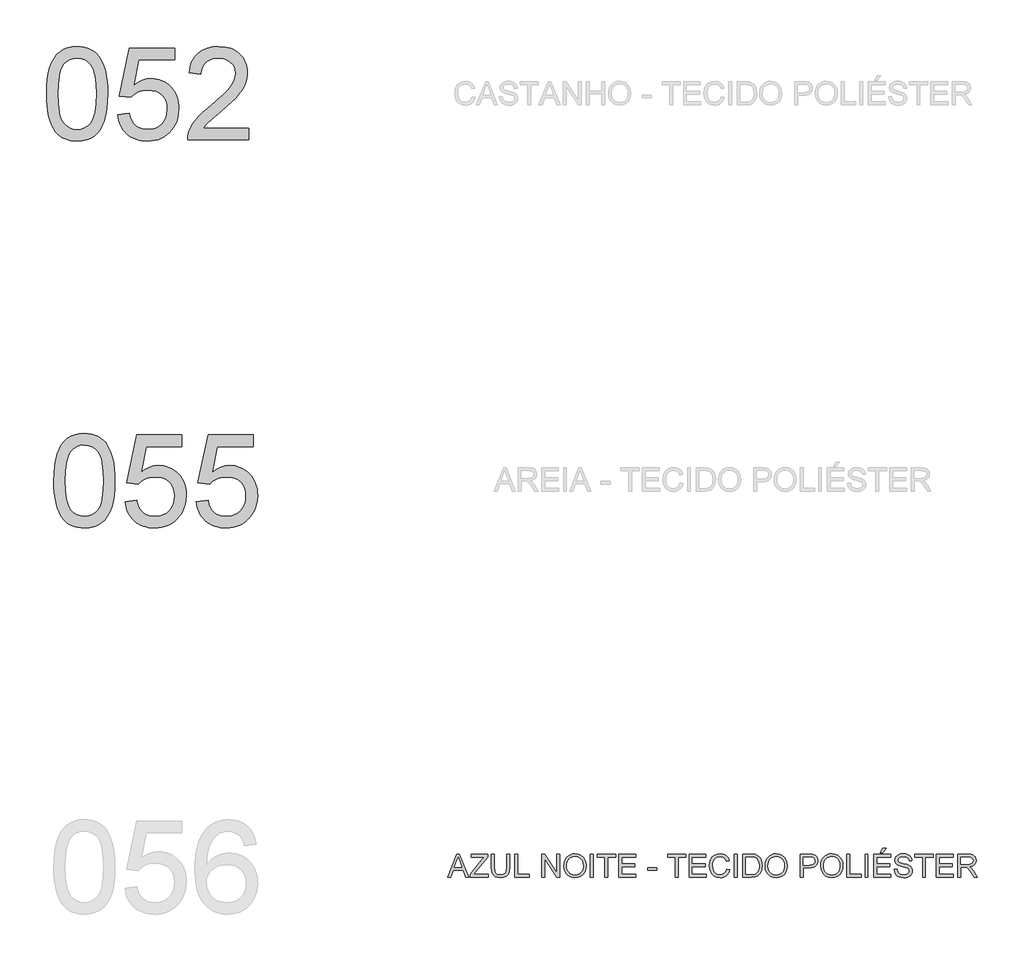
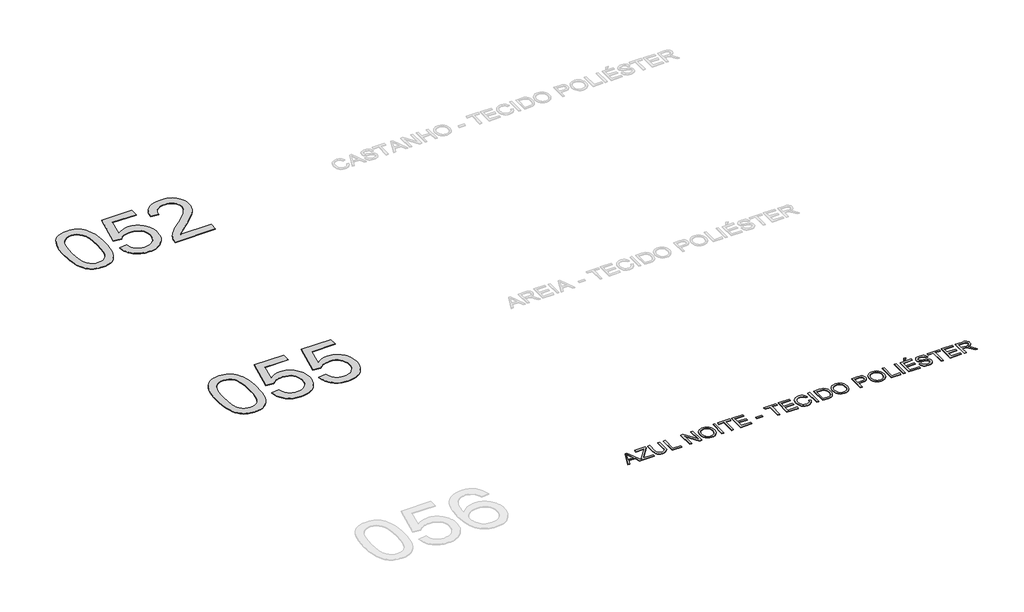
# One storey, part 50 of 67: 3 proxies.
"""IFC4 building model written with IfcOpenShell, lengths in millimetres."""

from ifc_helpers import new_model, si_unit, origin, origin_with_axes, place, context, project, spatial, polyline, outline, extrude, element, save

model = new_model("IFC4")

# Units and contexts
model_context = context("Model", 3, world=origin())
ifc_project = project(units=[si_unit("LENGTHUNIT", "METRE", prefix="MILLI")], contexts=[model_context])

# Site, building, storey
site = spatial("IfcSite", under=ifc_project)
building = spatial("IfcBuilding", under=site)
storey = spatial("IfcBuildingStorey", under=building, Name="Marelli - Linha COLAB - Planta Baixa", Elevation=0.0)

# Proxies
placement = place(None, origin())
element("IfcBuildingElementProxy", 1, Name="1200mm Arial", ObjectType="1200mm Arial", at=placement, inside=storey, context=model_context, shape_type="SweptSolid", body=[
    extrude(outline(polyline([(-134.0424838, -37395.792664), (-131.2741718, -37294.4319773), (-122.9692358, -37202.8385576), (-109.1276757, -37121.0124048), (-89.7494916, -37048.953519), (-64.9174569, -36986.073289), (-34.7143451, -36931.7831035), (0.8598438, -36886.0829627), (41.8051099, -36848.9728664), (88.2594088, -36820.2596767), (140.3606964, -36799.7502555), (198.1089726, -36787.4446027), (261.5042374, -36783.3427185), (309.1449558, -36785.7707396), (354.357653, -36793.0548031), (397.142329, -36805.194909), (437.4989839, -36822.1910572), (474.4527303, -36843.7581391), (507.028681, -36869.6110463), (535.2268359, -36899.7497788), (559.0471951, -36934.1743365), (579.685375, -36972.7467637), (598.3369922, -37015.3291046), (629.6805382, -37112.5235278), (641.6550971, -37169.6831928), (650.2083535, -37235.9479371), (655.3403073, -37311.3177609), (657.0509586, -37395.792664), (654.3102377, -37496.5095573), (646.0880752, -37587.6431245), (632.3844708, -37669.1933658), (613.1994248, -37741.1602811), (588.5605282, -37804.0681023), (558.4953721, -37858.4410612), (523.0039566, -37904.2791578), (482.0862817, -37941.5823921), (435.5768005, -37970.4887199), (383.309966, -37991.1360968), (325.2857783, -38003.524523), (261.5042374, -38007.6539984), (218.829926, -38005.8605737), (178.5100593, -38000.4802995), (140.5446374, -37991.5131759), (104.9336602, -37978.9592028), (71.6771279, -37962.8183803), (40.7750403, -37943.0907083), (12.2273975, -37919.7761868), (-13.9658006, -37892.8748159), (-42.1087732, -37850.2786794), (-66.4993495, -37802.0999336), (-87.1375294, -37748.3385785), (-104.023313, -37688.9946142), (-117.1567002, -37624.0680406), (-126.5376911, -37553.5588577), (-132.1662856, -37477.4670655), (-134.0424838, -37395.792664)]), holes=[polyline([(16.6419814, -37395.4983584), (21.0565653, -37526.4919399), (34.3003172, -37632.5247279), (44.233131, -37676.1808245), (56.3732369, -37713.5967226), (70.7206347, -37744.7724225), (87.2753245, -37769.7079239), (124.6521352, -37807.884878), (166.1492242, -37835.1541309), (211.7665916, -37851.5156826), (261.5042374, -37856.9695332), (311.2418831, -37851.4972885), (356.8592505, -37835.0805545), (398.3563396, -37807.7193311), (435.7331503, -37769.4136183), (452.2878401, -37744.418336), (466.6352379, -37713.2104465), (478.7753437, -37675.7899498), (488.7081576, -37632.1568459), (501.9519094, -37526.2528166), (506.3664934, -37395.4983584), (502.0990622, -37267.9720648), (489.2967688, -37163.8062779), (479.6950487, -37120.4835744), (467.9596131, -37083.0009976), (454.0904619, -37051.3585475), (438.0875951, -37025.5562241), (401.3361838, -36985.5122689), (359.3608481, -36956.9094438), (312.1615881, -36939.7477487), (259.7384038, -36934.0271837), (210.2582755, -36939.067167), (165.4134603, -36954.187117), (125.2039582, -36979.3870337), (89.6297692, -37014.666917), (72.5232565, -37043.2145599), (57.6976121, -37077.2068562), (45.152836, -37116.6438061), (34.8889284, -37161.5254095), (21.2037181, -37267.6225769), (16.6419814, -37395.4983584)])]), origin_with_axes(), (0.0, 0.0, 1.0), 10.0),
    extrude(outline(polyline([(788.8998657, -37668.6139517), (939.5843309, -37649.7783935), (950.84152, -37698.2192552), (967.2490569, -37740.2405761), (988.8069419, -37775.8423562), (1015.5151747, -37805.0245955), (1047.3185732, -37827.7505057), (1084.161955, -37843.9832988), (1126.0453202, -37853.7229746), (1172.9686686, -37856.9695332), (1230.3582599, -37852.4537817), (1280.9788224, -37838.9065272), (1324.8303563, -37816.3277698), (1361.9128614, -37784.7175093), (1391.3986033, -37745.6392444), (1412.4598475, -37700.6564734), (1425.096594, -37649.7691965), (1429.3088429, -37592.9774135), (1425.3633085, -37539.3034304), (1413.5267053, -37491.5891356), (1393.7990333, -37449.8345291), (1366.1802925, -37414.039611), (1330.5785124, -37385.3264213), (1286.9017225, -37364.817), (1235.1499229, -37352.5113473), (1175.3231134, -37348.4094631), (1137.0357948, -37350.0465379), (1102.224961, -37354.9577626), (1070.890612, -37363.143137), (1043.0327479, -37374.6026611), (995.7599116, -37404.6954083), (958.4198891, -37442.5872538), (807.7354238, -37423.7516957), (939.5843309, -36802.1782766), (1523.4866336, -36802.1782766), (1523.4866336, -36952.8627418), (1061.4268477, -36952.8627418), (996.9739222, -37284.8394543), (1050.1512646, -37246.7268796), (1104.6161939, -37219.503612), (1160.3687103, -37203.1696514), (1217.4088137, -37197.7249978), (1254.8477045, -37199.4126565), (1290.7920746, -37204.4756324), (1325.2419242, -37212.9139257), (1358.1972532, -37224.7275363), (1389.6580616, -37239.9164642), (1419.6243494, -37258.4807093), (1448.0961165, -37280.4202718), (1475.0733631, -37305.7351516), (1499.6639752, -37333.7033803), (1520.975839, -37363.6029895), (1539.0089546, -37395.4339791), (1553.7633219, -37429.1963492), (1565.2389408, -37464.8900998), (1573.4358115, -37502.5152308), (1578.353934, -37542.0717424), (1579.9933081, -37583.5596344), (1574.0888021, -37661.6241938), (1566.7081696, -37698.6147284), (1556.375284, -37734.2440996), (1543.0901455, -37768.5123075), (1526.8527539, -37801.4193519), (1507.6631093, -37832.965233), (1485.5212117, -37863.1499507), (1455.520435, -37897.0180869), (1422.9076962, -37926.3704716), (1387.6829951, -37951.2071048), (1349.8463319, -37971.5279865), (1309.3977066, -37987.3331167), (1266.337119, -37998.6224954), (1220.6645693, -38005.3961227), (1172.3800575, -38007.6539984), (1094.6190007, -38001.8506599), (1058.5596674, -37994.5964869), (1024.3811308, -37984.4406445), (992.0833909, -37971.383133), (961.6664477, -37955.4239522), (933.1303012, -37936.5631021), (906.4749513, -37914.8005828), (882.1372581, -37890.6422321), (860.5540813, -37864.5938875), (841.7254209, -37836.6555493), (825.651277, -37806.8272173), (812.3316495, -37775.1088915), (801.7665385, -37741.500572), (788.8998657, -37668.6139517)])), origin_with_axes(), (0.0, 0.0, 1.0), 10.0),
    extrude(outline(polyline([(1711.8422152, -37668.6139517), (1862.5266804, -37649.7783935), (1873.7838695, -37698.2192552), (1890.1914064, -37740.2405761), (1911.7492914, -37775.8423562), (1938.4575242, -37805.0245955), (1970.2609227, -37827.7505057), (2007.1043045, -37843.9832988), (2048.9876697, -37853.7229746), (2095.9110181, -37856.9695332), (2153.3006094, -37852.4537817), (2203.9211719, -37838.9065272), (2247.7727058, -37816.3277698), (2284.8552109, -37784.7175093), (2314.3409528, -37745.6392444), (2335.402197, -37700.6564734), (2348.0389435, -37649.7691965), (2352.2511924, -37592.9774135), (2348.305658, -37539.3034304), (2336.4690548, -37491.5891356), (2316.7413828, -37449.8345291), (2289.122642, -37414.039611), (2253.5208619, -37385.3264213), (2209.844072, -37364.817), (2158.0922724, -37352.5113473), (2098.2654629, -37348.4094631), (2059.9781443, -37350.0465379), (2025.1673105, -37354.9577626), (1993.8329615, -37363.143137), (1965.9750974, -37374.6026611), (1918.7022611, -37404.6954083), (1881.3622386, -37442.5872538), (1730.6777733, -37423.7516957), (1862.5266804, -36802.1782766), (2446.4289831, -36802.1782766), (2446.4289831, -36952.8627418), (1984.3691972, -36952.8627418), (1919.9162717, -37284.8394543), (1973.0936141, -37246.7268796), (2027.5585434, -37219.503612), (2083.3110598, -37203.1696514), (2140.3511632, -37197.7249978), (2177.790054, -37199.4126565), (2213.7344241, -37204.4756324), (2248.1842737, -37212.9139257), (2281.1396027, -37224.7275363), (2312.6004111, -37239.9164642), (2342.5666989, -37258.4807093), (2371.038466, -37280.4202718), (2398.0157126, -37305.7351516), (2422.6063247, -37333.7033803), (2443.9181885, -37363.6029895), (2461.9513041, -37395.4339791), (2476.7056714, -37429.1963492), (2488.1812903, -37464.8900998), (2496.378161, -37502.5152308), (2501.2962835, -37542.0717424), (2502.9356576, -37583.5596344), (2497.0311516, -37661.6241938), (2489.6505191, -37698.6147284), (2479.3176335, -37734.2440996), (2466.032495, -37768.5123075), (2449.7951034, -37801.4193519), (2430.6054588, -37832.965233), (2408.4635612, -37863.1499507), (2378.4627845, -37897.0180869), (2345.8500457, -37926.3704716), (2310.6253446, -37951.2071048), (2272.7886814, -37971.5279865), (2232.3400561, -37987.3331167), (2189.2794685, -37998.6224954), (2143.6069188, -38005.3961227), (2095.322407, -38007.6539984), (2017.5613502, -38001.8506599), (1981.5020169, -37994.5964869), (1947.3234803, -37984.4406445), (1915.0257404, -37971.383133), (1884.6087972, -37955.4239522), (1856.0726506, -37936.5631021), (1829.4173008, -37914.8005828), (1805.0796076, -37890.6422321), (1783.4964308, -37864.5938875), (1764.6677704, -37836.6555493), (1748.5936265, -37806.8272173), (1735.273999, -37775.1088915), (1724.708888, -37741.500572), (1711.8422152, -37668.6139517)])), origin_with_axes(), (0.0, 0.0, 1.0), 10.0),
])
element("IfcBuildingElementProxy", 2, Name="1200mm Arial", ObjectType="1200mm Arial", at=placement, inside=storey, context=model_context, shape_type="SweptSolid", body=[
    extrude(outline(polyline([(-228.2202746, -32387.5405438), (-225.4519626, -32286.1798571), (-217.1470265, -32194.5864374), (-203.3054665, -32112.7602846), (-183.9272824, -32040.7013988), (-159.0952477, -31977.8211688), (-128.8921359, -31923.5309833), (-93.317947, -31877.8308425), (-52.3726809, -31840.7207462), (-5.918382, -31812.0075565), (46.1829056, -31791.4981353), (103.9311818, -31779.1924825), (167.3264466, -31775.0905983), (214.967165, -31777.5186194), (260.1798622, -31784.8026829), (302.9645382, -31796.9427888), (343.3211931, -31813.938937), (380.2749395, -31835.5060189), (412.8508902, -31861.3589261), (441.0490451, -31891.4976586), (464.8694043, -31925.9222163), (485.5075843, -31964.4946435), (504.1592014, -32007.0769844), (535.5027474, -32104.2714076), (547.4773063, -32161.4310726), (556.0305627, -32227.6958169), (561.1625166, -32303.0656407), (562.8731678, -32387.5405438), (560.132447, -32488.2574371), (551.9102844, -32579.3910043), (538.2066801, -32660.9412456), (519.021634, -32732.9081609), (494.3827374, -32795.8159821), (464.3175813, -32850.188941), (428.8261658, -32896.0270376), (387.9084909, -32933.3302719), (341.3990097, -32962.2365997), (289.1321752, -32982.8839766), (231.1079875, -32995.2724028), (167.3264466, -32999.4018782), (124.6521352, -32997.6084535), (84.3322685, -32992.2281793), (46.3668466, -32983.2610557), (10.7558695, -32970.7070826), (-22.5006629, -32954.5662601), (-53.4027505, -32934.8385881), (-81.9503933, -32911.5240666), (-108.1435914, -32884.6226957), (-136.286564, -32842.0265592), (-160.6771403, -32793.8478134), (-181.3153202, -32740.0864583), (-198.2011038, -32680.742494), (-211.334491, -32615.8159204), (-220.7154819, -32545.3067375), (-226.3440764, -32469.2149453), (-228.2202746, -32387.5405438)]), holes=[polyline([(-77.5358094, -32387.2462382), (-73.1212254, -32518.2398197), (-59.8774736, -32624.2726077), (-49.9446597, -32667.9287043), (-37.8045539, -32705.3446024), (-23.4571561, -32736.5203023), (-6.9024663, -32761.4558037), (30.4743444, -32799.6327578), (71.9714335, -32826.9020107), (117.5888009, -32843.2635624), (167.3264466, -32848.717413), (217.0640924, -32843.2451683), (262.6814598, -32826.8284343), (304.1785488, -32799.4672109), (341.5553595, -32761.1614981), (358.1100493, -32736.1662158), (372.4574471, -32704.9583263), (384.597553, -32667.5378296), (394.5303668, -32623.9047257), (407.7741187, -32518.0006964), (412.1887026, -32387.2462382), (407.9212715, -32259.7199446), (395.118978, -32155.5541577), (385.517258, -32112.2314542), (373.7818223, -32074.7488774), (359.9126711, -32043.1064273), (343.9098043, -32017.3041039), (307.158393, -31977.2601487), (265.1830573, -31948.6573236), (217.9837974, -31931.4956285), (165.5606131, -31925.7750635), (116.0804847, -31930.8150468), (71.2356695, -31945.9349968), (31.0261674, -31971.1349135), (-4.5480215, -32006.4147968), (-21.6545343, -32034.9624397), (-36.4801787, -32068.954736), (-49.0249547, -32108.3916859), (-59.2888624, -32153.2732893), (-72.9740726, -32259.3704567), (-77.5358094, -32387.2462382)])]), origin_with_axes(), (0.0, 0.0, 1.0), 10.0),
    extrude(outline(polyline([(694.7220749, -32660.3618315), (845.4065401, -32641.5262733), (856.6637292, -32689.967135), (873.0712662, -32731.9884559), (894.6291511, -32767.590236), (921.3373839, -32796.7724753), (953.1407824, -32819.4983855), (989.9841642, -32835.7311786), (1031.8675294, -32845.4708544), (1078.7908779, -32848.717413), (1136.1804691, -32844.2016615), (1186.8010317, -32830.654407), (1230.6525655, -32808.0756496), (1267.7350706, -32776.4653891), (1297.2208125, -32737.3871242), (1318.2820567, -32692.4043532), (1330.9188033, -32641.5170763), (1335.1310521, -32584.7252933), (1331.1855177, -32531.0513102), (1319.3489145, -32483.3370154), (1299.6212425, -32441.5824089), (1272.0025017, -32405.7874908), (1236.4007217, -32377.0743011), (1192.7239318, -32356.5648798), (1140.9721321, -32344.2592271), (1081.1453226, -32340.1573429), (1042.858004, -32341.7944177), (1008.0471702, -32346.7056424), (976.7128213, -32354.8910168), (948.8549572, -32366.3505409), (901.5821208, -32396.4432881), (864.2420983, -32434.3351336), (713.5576331, -32415.4995755), (845.4065401, -31793.9261564), (1429.3088429, -31793.9261564), (1429.3088429, -31944.6106217), (967.2490569, -31944.6106217), (902.7961314, -32276.5873341), (955.9734738, -32238.4747594), (1010.4384032, -32211.2514918), (1066.1909195, -32194.9175312), (1123.2310229, -32189.4728776), (1160.6699137, -32191.1605363), (1196.6142839, -32196.2235123), (1231.0641335, -32204.6618055), (1264.0194624, -32216.4754161), (1295.4802708, -32231.664344), (1325.4465586, -32250.2285891), (1353.9183258, -32272.1681516), (1380.8955723, -32297.4830314), (1405.4861844, -32325.4512601), (1426.7980483, -32355.3508693), (1444.8311638, -32387.1818589), (1459.5855311, -32420.944229), (1471.0611501, -32456.6379796), (1479.2580208, -32494.2631106), (1484.1761432, -32533.8196222), (1485.8155173, -32575.3075142), (1479.9110113, -32653.3720736), (1472.5303788, -32690.3626082), (1462.1974933, -32725.9919794), (1448.9123547, -32760.2601873), (1432.6749631, -32793.1672317), (1413.4853186, -32824.7131128), (1391.343421, -32854.8978305), (1361.3426443, -32888.7659667), (1328.7299054, -32918.1183514), (1293.5052044, -32942.9549846), (1255.6685412, -32963.2758663), (1215.2199158, -32979.0809965), (1172.1593283, -32990.3703752), (1126.4867786, -32997.1440025), (1078.2022667, -32999.4018782), (1000.44121, -32993.5985397), (964.3818766, -32986.3443667), (930.20334, -32976.1885243), (897.9056001, -32963.1310128), (867.4886569, -32947.171832), (838.9525104, -32928.3109819), (812.2971606, -32906.5484626), (787.9594673, -32882.3901119), (766.3762905, -32856.3417673), (747.5476302, -32828.4034291), (731.4734862, -32798.5750971), (718.1538587, -32766.8567713), (707.5887477, -32733.2484518), (694.7220749, -32660.3618315)])), origin_with_axes(), (0.0, 0.0, 1.0), 10.0),
    extrude(outline(polyline([(2389.9223087, -32829.8818548), (2389.9223087, -32980.5663201), (1598.8288663, -32980.5663201), (1602.1398042, -32927.5177364), (1615.015674, -32876.6764446), (1631.4416051, -32835.7771638), (1652.1717556, -32795.4848883), (1677.2061253, -32755.7996181), (1706.5447144, -32716.7213531), (1741.9533565, -32676.7233832), (1785.197885, -32634.278998), (1895.1946016, -32542.0509818), (1984.6267146, -32465.1084625), (2057.7984434, -32397.6205105), (2114.7097881, -32339.5871258), (2155.3607486, -32291.0083083), (2183.8164209, -32247.4510801), (2204.1419011, -32204.482463), (2216.3371893, -32162.1024572), (2220.4022853, -32120.3110625), (2216.5671155, -32080.9936743), (2205.0616061, -32044.8584653), (2185.8857571, -32011.9054356), (2159.0395685, -31982.1345852), (2126.0129624, -31957.4772944), (2088.2958608, -31939.8649439), (2045.8882638, -31929.2975336), (1998.7901714, -31925.7750635), (1949.1720873, -31929.2147602), (1904.7963216, -31939.5338501), (1865.6628744, -31956.7323334), (1831.7717456, -31980.81021), (1804.3553399, -32010.9581395), (1784.646062, -32046.3667815), (1772.6439119, -32087.0361361), (1768.3488896, -32132.9662032), (1617.6644244, -32114.130645), (1630.6230677, -32036.3419971), (1641.0824127, -32001.1310917), (1654.1951065, -31968.3757985), (1669.9611493, -31938.0761177), (1688.3805409, -31910.2320492), (1709.4532815, -31884.843593), (1733.1793709, -31861.9107491), (1759.3012918, -31841.5622763), (1787.5615268, -31823.9269331), (1817.9600759, -31809.0047197), (1850.4969392, -31796.795636), (1921.9856079, -31780.5168577), (2002.027533, -31775.0905983), (2082.786828, -31781.123863), (2119.8348441, -31788.6654439), (2154.6617728, -31799.2236572), (2187.2676139, -31812.7985028), (2217.6523674, -31829.3899808), (2245.8160334, -31848.9980911), (2271.7586118, -31871.6228338), (2295.0386443, -31896.4824596), (2315.2146725, -31922.7952193), (2332.2866964, -31950.5611129), (2346.2547159, -31979.7801404), (2357.118731, -32010.4523017), (2364.8787419, -32042.577597), (2369.5347484, -32076.1560261), (2371.0867505, -32111.1875891), (2369.4128875, -32147.3779803), (2364.3912982, -32183.2556719), (2356.0219828, -32218.8206638), (2344.3049413, -32254.072956), (2328.6975476, -32289.6287508), (2308.657176, -32326.1042506), (2255.2774985, -32401.8143653), (2218.4433137, -32443.798898), (2170.186393, -32492.2029715), (2039.4043437, -32608.2697409), (1866.0583476, -32753.215247), (1828.4608076, -32791.4381863), (1798.0737548, -32829.8818548), (2389.9223087, -32829.8818548)])), origin_with_axes(), (0.0, 0.0, 1.0), 10.0),
])
element("IfcBuildingElementProxy", 3, Name="300mm Arial", ObjectType="300mm Arial", at=placement, inside=storey, context=model_context, shape_type="SweptSolid", body=[
    extrude(outline(polyline([(4964.6445809, -42530.5663201), (5084.9419933, -42229.1973896), (5117.0213033, -42229.1973896), (5237.3187157, -42530.5663201), (5197.5138838, -42530.5663201), (5163.0065527, -42436.3885293), (5038.8831675, -42436.3885293), (5004.4494127, -42530.5663201), (4964.6445809, -42530.5663201)]), holes=[polyline([(5052.7155305, -42398.717413), (5149.247766, -42398.717413), (5122.0980748, -42324.6259792), (5100.9816483, -42266.8685059), (5082.2196665, -42318.1512561), (5052.7155305, -42398.717413)])]), origin_with_axes(), (0.0, 0.0, 1.0), 10.0),
    extrude(outline(polyline([(5254.0205583, -42530.5663201), (5254.0205583, -42491.4972522), (5408.1631142, -42302.7737887), (5437.4465211, -42266.8685059), (5272.8561164, -42266.8685059), (5272.8561164, -42229.1973896), (5484.7561456, -42229.1973896), (5484.7561456, -42266.8685059), (5316.0454627, -42473.397458), (5300.1529605, -42492.8952038), (5489.4650352, -42492.8952038), (5489.4650352, -42530.5663201), (5254.0205583, -42530.5663201)])), origin_with_axes(), (0.0, 0.0, 1.0), 10.0),
    extrude(outline(polyline([(5729.6184016, -42229.1973896), (5767.2895179, -42229.1973896), (5767.2895179, -42403.0584205), (5764.7327381, -42443.7737604), (5757.0623985, -42475.1265034), (5742.7333948, -42499.3147446), (5720.2006226, -42518.5365788), (5689.4088996, -42531.0905519), (5650.3030435, -42535.2752096), (5612.052513, -42531.6331779), (5581.4723222, -42520.7070826), (5558.5532739, -42502.8740029), (5543.2861711, -42478.5110178), (5534.7053235, -42445.8338995), (5531.845041, -42403.0584205), (5531.845041, -42229.1973896), (5569.5161573, -42229.1973896), (5569.5161573, -42401.7340454), (5571.3739614, -42435.588386), (5576.9473736, -42459.1604248), (5587.0457344, -42475.4851883), (5602.4783841, -42487.597703), (5622.6015292, -42495.1024957), (5646.7713763, -42497.6040933), (5685.0862861, -42492.6560805), (5699.4290854, -42486.4710644), (5710.5621143, -42477.812042), (5718.89924, -42465.6351479), (5724.8543298, -42448.8965171), (5729.6184016, -42401.7340454), (5729.6184016, -42229.1973896)])), origin_with_axes(), (0.0, 0.0, 1.0), 10.0),
    extrude(outline(polyline([(5833.2139715, -42530.5663201), (5833.2139715, -42229.1973896), (5870.8850878, -42229.1973896), (5870.8850878, -42492.8952038), (6021.569553, -42492.8952038), (6021.569553, -42530.5663201), (5833.2139715, -42530.5663201)])), origin_with_axes(), (0.0, 0.0, 1.0), 10.0),
    extrude(outline(polyline([(6181.6717973, -42530.5663201), (6181.6717973, -42229.1973896), (6221.991664, -42229.1973896), (6379.4451579, -42467.9528045), (6379.4451579, -42229.1973896), (6417.1162742, -42229.1973896), (6417.1162742, -42530.5663201), (6376.7964075, -42530.5663201), (6219.3429136, -42291.7373288), (6219.3429136, -42530.5663201), (6181.6717973, -42530.5663201)])), origin_with_axes(), (0.0, 0.0, 1.0), 10.0),
    extrude(outline(polyline([(6468.9140591, -42383.8549804), (6471.4248538, -42348.5061192), (6478.9572376, -42317.213157), (6491.5112107, -42289.9760937), (6509.086773, -42266.7949295), (6530.6308624, -42248.2858666), (6555.0904165, -42235.0651074), (6582.4654355, -42227.1326519), (6612.7559193, -42224.4885001), (6652.2848396, -42229.454907), (6687.7302699, -42244.3541278), (6717.1608295, -42268.1376988), (6738.645138, -42299.7571563), (6751.7785252, -42337.68579), (6756.156321, -42380.3968896), (6751.548599, -42423.6782064), (6737.725433, -42462.140269), (6715.4501782, -42493.8149088), (6685.4861897, -42516.733957), (6650.3442621, -42530.6398965), (6612.5351901, -42535.2752096), (6572.3992644, -42530.1524528), (6536.7514991, -42514.7841825), (6507.3945158, -42490.5591531), (6486.1309365, -42458.8661192), (6473.2182785, -42422.3998164), (6468.9140591, -42383.8549804)]), holes=[polyline([(6506.5851754, -42384.2228624), (6508.4682714, -42409.1974513), (6514.1175593, -42431.3669401), (6523.5330391, -42450.7313286), (6536.7147109, -42467.2906169), (6552.738271, -42480.5527628), (6570.6794161, -42490.0257242), (6590.538146, -42495.709501), (6612.3144609, -42497.6040933), (6634.4632562, -42495.6911069), (6654.556511, -42489.9521478), (6672.594225, -42480.3872159), (6688.5763985, -42466.9963113), (6701.6615012, -42450.0875351), (6711.0080031, -42429.9689885), (6716.6159043, -42406.6406715), (6718.4852047, -42380.102584), (6715.2846313, -42346.7540812), (6705.6829112, -42317.9305269), (6689.9283648, -42294.358488), (6668.2693123, -42276.7645316), (6642.1404936, -42265.8108452), (6612.9766485, -42262.1596164), (6591.956791, -42263.9185522), (6572.4544467, -42269.1953595), (6554.4696156, -42277.9900385), (6538.0022978, -42290.302589), (6524.2573068, -42306.7262208), (6514.439456, -42327.8541437), (6508.5487456, -42353.6863575), (6506.5851754, -42384.2228624)])]), origin_with_axes(), (0.0, 0.0, 1.0), 10.0),
    extrude(outline(polyline([(6812.6629954, -42530.5663201), (6812.6629954, -42229.1973896), (6850.3341117, -42229.1973896), (6850.3341117, -42530.5663201), (6812.6629954, -42530.5663201)])), origin_with_axes(), (0.0, 0.0, 1.0), 10.0),
    extrude(outline(polyline([(7001.018577, -42530.5663201), (7001.018577, -42266.8685059), (6902.1318967, -42266.8685059), (6902.1318967, -42229.1973896), (7137.5763736, -42229.1973896), (7137.5763736, -42266.8685059), (7038.6896933, -42266.8685059), (7038.6896933, -42530.5663201), (7001.018577, -42530.5663201)])), origin_with_axes(), (0.0, 0.0, 1.0), 10.0),
    extrude(outline(polyline([(7179.9563794, -42530.5663201), (7179.9563794, -42229.1973896), (7396.5652982, -42229.1973896), (7396.5652982, -42266.8685059), (7217.6274957, -42266.8685059), (7217.6274957, -42356.3374072), (7387.1475191, -42356.3374072), (7387.1475191, -42394.0085235), (7217.6274957, -42394.0085235), (7217.6274957, -42492.8952038), (7401.2741877, -42492.8952038), (7401.2741877, -42530.5663201), (7179.9563794, -42530.5663201)])), origin_with_axes(), (0.0, 0.0, 1.0), 10.0),
    extrude(outline(polyline([(7551.9586529, -42441.0974188), (7551.9586529, -42403.4263025), (7669.6808914, -42403.4263025), (7669.6808914, -42441.0974188), (7551.9586529, -42441.0974188)])), origin_with_axes(), (0.0, 0.0, 1.0), 10.0),
    extrude(outline(polyline([(7909.8342578, -42530.5663201), (7909.8342578, -42266.8685059), (7810.9475775, -42266.8685059), (7810.9475775, -42229.1973896), (8046.3920545, -42229.1973896), (8046.3920545, -42266.8685059), (7947.5053742, -42266.8685059), (7947.5053742, -42530.5663201), (7909.8342578, -42530.5663201)])), origin_with_axes(), (0.0, 0.0, 1.0), 10.0),
    extrude(outline(polyline([(8088.7720603, -42530.5663201), (8088.7720603, -42229.1973896), (8305.3809791, -42229.1973896), (8305.3809791, -42266.8685059), (8126.4431766, -42266.8685059), (8126.4431766, -42356.3374072), (8295.9632, -42356.3374072), (8295.9632, -42394.0085235), (8126.4431766, -42394.0085235), (8126.4431766, -42492.8952038), (8310.0898686, -42492.8952038), (8310.0898686, -42530.5663201), (8088.7720603, -42530.5663201)])), origin_with_axes(), (0.0, 0.0, 1.0), 10.0),
    extrude(outline(polyline([(8578.4965723, -42423.4390831), (8616.1676886, -42433.1511677), (8608.7134797, -42456.5783531), (8598.7852643, -42477.0486868), (8586.3830426, -42494.5621691), (8571.5068144, -42509.1187997), (8554.4922721, -42520.5622291), (8535.675108, -42528.7361071), (8515.0553222, -42533.640434), (8492.6329146, -42535.2752096), (8448.9377306, -42530.3271968), (8414.2372614, -42515.4831583), (8387.6393932, -42491.2581289), (8368.252012, -42458.1671434), (8356.4154088, -42419.2636224), (8352.4698744, -42377.6009865), (8356.9304436, -42333.6574821), (8370.3121512, -42295.7104543), (8391.9160214, -42264.9647166), (8421.0430783, -42242.6250824), (8455.5871977, -42229.0226457), (8493.442255, -42224.4885001), (8534.746206, -42230.3562179), (8552.7149422, -42237.6908652), (8568.8948522, -42247.9593714), (8583.0192216, -42260.8904235), (8594.8213358, -42276.2127086), (8611.458799, -42314.0309777), (8573.7876827, -42323.0072984), (8560.7278719, -42295.5357104), (8542.8855951, -42276.6909552), (8520.0401232, -42265.7924511), (8491.970727, -42262.1596164), (8459.6155055, -42266.1879242), (8433.0360314, -42278.2728478), (8412.866901, -42297.1451941), (8399.7427108, -42321.5357704), (8392.5414208, -42349.1085259), (8390.1409908, -42377.5274101), (8392.9828792, -42412.3290468), (8401.5085444, -42442.421794), (8416.0398832, -42466.6560205), (8436.8987923, -42483.8820949), (8461.905571, -42494.1735937), (8488.8805183, -42497.6040933), (8520.3252318, -42492.931992), (8546.5276269, -42478.9156879), (8566.3104812, -42455.702334), (8578.4965723, -42423.4390831)])), origin_with_axes(), (0.0, 0.0, 1.0), 10.0),
    extrude(outline(polyline([(8672.674363, -42530.5663201), (8672.674363, -42229.1973896), (8710.3454794, -42229.1973896), (8710.3454794, -42530.5663201), (8672.674363, -42530.5663201)])), origin_with_axes(), (0.0, 0.0, 1.0), 10.0),
    extrude(outline(polyline([(8785.687712, -42530.5663201), (8785.687712, -42229.1973896), (8889.6511638, -42229.1973896), (8943.4355115, -42233.5383972), (8967.4582058, -42241.9077126), (8987.7285037, -42255.0962821), (9008.5690187, -42278.0521186), (9023.4130572, -42306.5997614), (9032.2974074, -42340.1873876), (9035.2588575, -42378.2631741), (9033.2539006, -42410.6091985), (9027.23903, -42439.0740679), (9018.0787683, -42463.3082943), (9006.6376383, -42482.9623899), (8993.4674628, -42498.477813), (8979.120065, -42510.2960221), (8962.6481487, -42519.0608107), (8943.1044177, -42525.4159721), (8894.6543589, -42530.5663201), (8785.687712, -42530.5663201)]), holes=[polyline([(8823.3588283, -42492.8952038), (8890.0190458, -42492.8952038), (8917.5918013, -42491.5340404), (8938.5058928, -42487.4505502), (8954.2880304, -42480.8838566), (8966.4649244, -42472.0730828), (8979.5523264, -42455.7667134), (8989.3839727, -42434.6594839), (8995.5367991, -42408.6594239), (8997.5877412, -42377.6745629), (8993.5686304, -42336.6189322), (8981.511298, -42306.3054558), (8963.6966124, -42285.4833349), (8942.4054419, -42272.9017706), (8920.7371924, -42268.3768221), (8888.9889762, -42266.8685059), (8823.3588283, -42266.8685059), (8823.3588283, -42492.8952038)])]), origin_with_axes(), (0.0, 0.0, 1.0), 10.0),
    extrude(outline(polyline([(9072.9299738, -42383.8549804), (9075.4407684, -42348.5061192), (9082.9731523, -42317.213157), (9095.5271254, -42289.9760937), (9113.1026877, -42266.7949295), (9134.646777, -42248.2858666), (9159.1063312, -42235.0651074), (9186.4813501, -42227.1326519), (9216.7718339, -42224.4885001), (9256.3007543, -42229.454907), (9291.7461845, -42244.3541278), (9321.1767441, -42268.1376988), (9342.6610527, -42299.7571563), (9355.7944399, -42337.68579), (9360.1722356, -42380.3968896), (9355.5645136, -42423.6782064), (9341.7413477, -42462.140269), (9319.4660929, -42493.8149088), (9289.5021044, -42516.733957), (9254.3601768, -42530.6398965), (9216.5511047, -42535.2752096), (9176.415179, -42530.1524528), (9140.7674137, -42514.7841825), (9111.4104305, -42490.5591531), (9090.1468512, -42458.8661192), (9077.2341931, -42422.3998164), (9072.9299738, -42383.8549804)]), holes=[polyline([(9110.6010901, -42384.2228624), (9112.4841861, -42409.1974513), (9118.133474, -42431.3669401), (9127.5489538, -42450.7313286), (9140.7306255, -42467.2906169), (9156.7541857, -42480.5527628), (9174.6953307, -42490.0257242), (9194.5540607, -42495.709501), (9216.3303755, -42497.6040933), (9238.4791709, -42495.6911069), (9258.5724256, -42489.9521478), (9276.6101397, -42480.3872159), (9292.5923131, -42466.9963113), (9305.6774158, -42450.0875351), (9315.0239178, -42429.9689885), (9320.6318189, -42406.6406715), (9322.5011193, -42380.102584), (9319.300546, -42346.7540812), (9309.6988259, -42317.9305269), (9293.9442795, -42294.358488), (9272.285227, -42276.7645316), (9246.1564083, -42265.8108452), (9216.9925631, -42262.1596164), (9195.9727056, -42263.9185522), (9176.4703613, -42269.1953595), (9158.4855303, -42277.9900385), (9142.0182125, -42290.302589), (9128.2732214, -42306.7262208), (9118.4553707, -42327.8541437), (9112.5646603, -42353.6863575), (9110.6010901, -42384.2228624)])]), origin_with_axes(), (0.0, 0.0, 1.0), 10.0),
    extrude(outline(polyline([(9529.692259, -42530.5663201), (9529.692259, -42229.1973896), (9641.3812327, -42229.1973896), (9686.409989, -42232.0668692), (9706.4871488, -42237.4287493), (9723.0142475, -42246.1567496), (9736.3223787, -42258.6463433), (9746.7426362, -42275.2930036), (9753.4748767, -42294.9287051), (9755.7189568, -42316.3854225), (9754.2037429, -42334.8852883), (9749.658101, -42351.9044291), (9742.0820311, -42367.4428449), (9731.4755334, -42381.5005356), (9716.9143041, -42393.1531978), (9697.47404, -42401.476528), (9673.1547408, -42406.470526), (9643.9564067, -42408.1351921), (9567.3633753, -42408.1351921), (9567.3633753, -42530.5663201), (9529.692259, -42530.5663201)]), holes=[polyline([(9567.3633753, -42370.4640758), (9646.1636987, -42370.4640758), (9679.5673838, -42367.005985), (9701.6403036, -42356.6317127), (9713.9459563, -42339.9850525), (9718.0478405, -42317.7097977), (9715.6290164, -42300.7872259), (9708.3725441, -42286.5134045), (9697.1797344, -42275.7712502), (9682.9518982, -42269.4436799), (9645.2807819, -42266.8685059), (9567.3633753, -42266.8685059), (9567.3633753, -42370.4640758)])]), origin_with_axes(), (0.0, 0.0, 1.0), 10.0),
    extrude(outline(polyline([(9793.3900732, -42383.8549804), (9795.9008678, -42348.5061192), (9803.4332516, -42317.213157), (9815.9872247, -42289.9760937), (9833.562787, -42266.7949295), (9855.1068764, -42248.2858666), (9879.5664305, -42235.0651074), (9906.9414495, -42227.1326519), (9937.2319333, -42224.4885001), (9976.7608536, -42229.454907), (10012.2062839, -42244.3541278), (10041.6368435, -42268.1376988), (10063.121152, -42299.7571563), (10076.2545392, -42337.68579), (10080.632335, -42380.3968896), (10076.024613, -42423.6782064), (10062.201447, -42462.140269), (10039.9261922, -42493.8149088), (10009.9622037, -42516.733957), (9974.8202761, -42530.6398965), (9937.0112041, -42535.2752096), (9896.8752784, -42530.1524528), (9861.2275131, -42514.7841825), (9831.8705298, -42490.5591531), (9810.6069505, -42458.8661192), (9797.6942925, -42422.3998164), (9793.3900732, -42383.8549804)]), holes=[polyline([(9831.0611895, -42384.2228624), (9832.9442854, -42409.1974513), (9838.5935733, -42431.3669401), (9848.0090531, -42450.7313286), (9861.1907249, -42467.2906169), (9877.214285, -42480.5527628), (9895.1554301, -42490.0257242), (9915.01416, -42495.709501), (9936.7904749, -42497.6040933), (9958.9392702, -42495.6911069), (9979.032525, -42489.9521478), (9997.070239, -42480.3872159), (10013.0524125, -42466.9963113), (10026.1375152, -42450.0875351), (10035.4840171, -42429.9689885), (10041.0919183, -42406.6406715), (10042.9612187, -42380.102584), (10039.7606453, -42346.7540812), (10030.1589252, -42317.9305269), (10014.4043788, -42294.358488), (9992.7453263, -42276.7645316), (9966.6165076, -42265.8108452), (9937.4526625, -42262.1596164), (9916.432805, -42263.9185522), (9896.9304607, -42269.1953595), (9878.9456297, -42277.9900385), (9862.4783118, -42290.302589), (9848.7333208, -42306.7262208), (9838.9154701, -42327.8541437), (9833.0247596, -42353.6863575), (9831.0611895, -42384.2228624)])]), origin_with_axes(), (0.0, 0.0, 1.0), 10.0),
    extrude(outline(polyline([(10132.4301199, -42530.5663201), (10132.4301199, -42229.1973896), (10170.1012362, -42229.1973896), (10170.1012362, -42492.8952038), (10320.7857014, -42492.8952038), (10320.7857014, -42530.5663201), (10132.4301199, -42530.5663201)])), origin_with_axes(), (0.0, 0.0, 1.0), 10.0),
    extrude(outline(polyline([(10367.8745968, -42530.5663201), (10367.8745968, -42229.1973896), (10405.5457131, -42229.1973896), (10405.5457131, -42530.5663201), (10367.8745968, -42530.5663201)])), origin_with_axes(), (0.0, 0.0, 1.0), 10.0),
    extrude(outline(polyline([(10480.8879457, -42530.5663201), (10480.8879457, -42229.1973896), (10697.4968645, -42229.1973896), (10697.4968645, -42266.8685059), (10518.559062, -42266.8685059), (10518.559062, -42356.3374072), (10688.0790854, -42356.3374072), (10688.0790854, -42394.0085235), (10518.559062, -42394.0085235), (10518.559062, -42492.8952038), (10702.205754, -42492.8952038), (10702.205754, -42530.5663201), (10480.8879457, -42530.5663201)])), origin_with_axes(), (0.0, 0.0, 1.0), 10.0),
    extrude(outline(polyline([(10565.6479574, -42210.3618315), (10593.9012947, -42153.855157), (10640.99019, -42153.855157), (10593.9012947, -42210.3618315), (10565.6479574, -42210.3618315)])), origin_with_axes(), (0.0, 0.0, 1.0), 10.0),
    extrude(outline(polyline([(10744.5857599, -42426.9707502), (10782.2568762, -42426.9707502), (10786.5794896, -42447.8756446), (10794.396982, -42464.6786547), (10806.5922702, -42478.0143771), (10824.0482708, -42488.517408), (10845.3854266, -42495.332422), (10869.2241798, -42497.6040933), (10890.2118477, -42495.884245), (10908.5875533, -42490.7247), (10923.4775771, -42482.5577197), (10934.0081992, -42471.8155654), (10940.2713902, -42459.4823216), (10942.3591205, -42446.5420724), (10940.795622, -42433.932917), (10936.1051266, -42423.0344129), (10926.5769829, -42413.7361954), (10910.5005397, -42405.9279001), (10855.6493342, -42391.5437141), (10819.6428839, -42382.0247675), (10796.604274, -42372.9656733), (10777.8514893, -42360.2921386), (10764.5617522, -42344.9330653), (10756.6430923, -42327.2195472), (10754.003539, -42307.4826782), (10757.2684917, -42285.4189555), (10767.0633498, -42264.845155), (10783.1305959, -42247.4075484), (10805.2127127, -42234.7524077), (10831.7186104, -42227.054477), (10861.0571996, -42224.4885001), (10892.8422039, -42227.1740386), (10920.6540828, -42235.2306543), (10943.4995547, -42248.4928003), (10960.3853383, -42266.7949295), (10971.0723102, -42288.9966079), (10975.3213473, -42313.9574013), (10937.650231, -42313.9574013), (10930.7340494, -42291.4798114), (10916.3130752, -42275.2562154), (10893.780303, -42265.4337661), (10862.5287275, -42262.1596164), (10830.5413881, -42265.3969779), (10808.597227, -42275.1090626), (10795.9052982, -42289.4012781), (10791.6746553, -42306.3790322), (10794.6728935, -42320.8551887), (10803.6676083, -42332.4986539), (10824.9311876, -42342.9097143), (10865.1774779, -42353.541504), (10906.7113552, -42363.6398648), (10931.8376954, -42372.4506385), (10953.3128069, -42386.1174547), (10968.2948011, -42402.9848441), (10977.0963779, -42422.868866), (10980.0302368, -42445.5855792), (10976.6549195, -42468.8081301), (10966.5289676, -42490.6511236), (10950.0662483, -42509.4498935), (10927.6806289, -42523.539774), (10900.7608639, -42532.3413507), (10870.6957078, -42535.2752096), (10833.7879467, -42532.1114244), (10803.4100909, -42522.620069), (10779.2126527, -42506.764355), (10760.8461441, -42484.5074943), (10749.0555261, -42457.3945912), (10744.5857599, -42426.9707502)])), origin_with_axes(), (0.0, 0.0, 1.0), 10.0),
    extrude(outline(polyline([(11111.8791439, -42530.5663201), (11111.8791439, -42266.8685059), (11012.9924636, -42266.8685059), (11012.9924636, -42229.1973896), (11248.4369405, -42229.1973896), (11248.4369405, -42266.8685059), (11149.5502602, -42266.8685059), (11149.5502602, -42530.5663201), (11111.8791439, -42530.5663201)])), origin_with_axes(), (0.0, 0.0, 1.0), 10.0),
    extrude(outline(polyline([(11290.8169463, -42530.5663201), (11290.8169463, -42229.1973896), (11507.4258651, -42229.1973896), (11507.4258651, -42266.8685059), (11328.4880626, -42266.8685059), (11328.4880626, -42356.3374072), (11498.008086, -42356.3374072), (11498.008086, -42394.0085235), (11328.4880626, -42394.0085235), (11328.4880626, -42492.8952038), (11512.1347546, -42492.8952038), (11512.1347546, -42530.5663201), (11290.8169463, -42530.5663201)])), origin_with_axes(), (0.0, 0.0, 1.0), 10.0),
    extrude(outline(polyline([(11568.6414291, -42530.5663201), (11568.6414291, -42229.1973896), (11698.5037734, -42229.1973896), (11733.4065777, -42231.2299376), (11758.7996324, -42237.3275817), (11777.359279, -42248.5847708), (11791.7618592, -42266.0959537), (11801.0048943, -42287.8101885), (11804.085906, -42311.6765329), (11798.9815433, -42341.3646099), (11783.6684553, -42365.9759154), (11772.0686761, -42376.0052983), (11757.6867894, -42384.0205273), (11720.5766931, -42394.0085235), (11741.9874252, -42410.1217548), (11772.5216308, -42448.8965171), (11822.7743113, -42530.5663201), (11778.9963539, -42530.5663201), (11739.7801332, -42468.0999573), (11711.4532196, -42426.750021), (11691.5508037, -42407.2154871), (11673.6349505, -42400.0417882), (11651.78276, -42398.717413), (11606.3125454, -42398.717413), (11606.3125454, -42530.5663201), (11568.6414291, -42530.5663201)]), holes=[polyline([(11606.3125454, -42361.0462967), (11690.6310987, -42361.0462967), (11714.846931, -42359.7127245), (11733.6365039, -42355.7120078), (11747.7815666, -42348.7774322), (11758.0638684, -42338.6422832), (11764.3270594, -42326.3826157), (11766.4147897, -42313.0744845), (11762.4324671, -42294.6987789), (11750.4854993, -42279.8915286), (11729.9300928, -42270.1242616), (11700.1224542, -42266.8685059), (11606.3125454, -42266.8685059), (11606.3125454, -42361.0462967)])]), origin_with_axes(), (0.0, 0.0, 1.0), 10.0),
])

save(model, "model.ifc")
